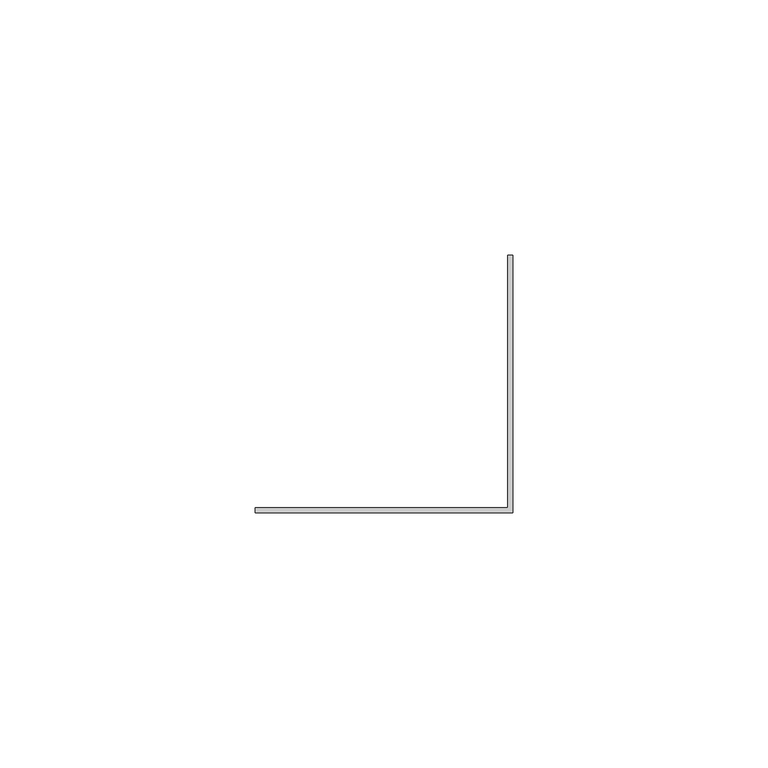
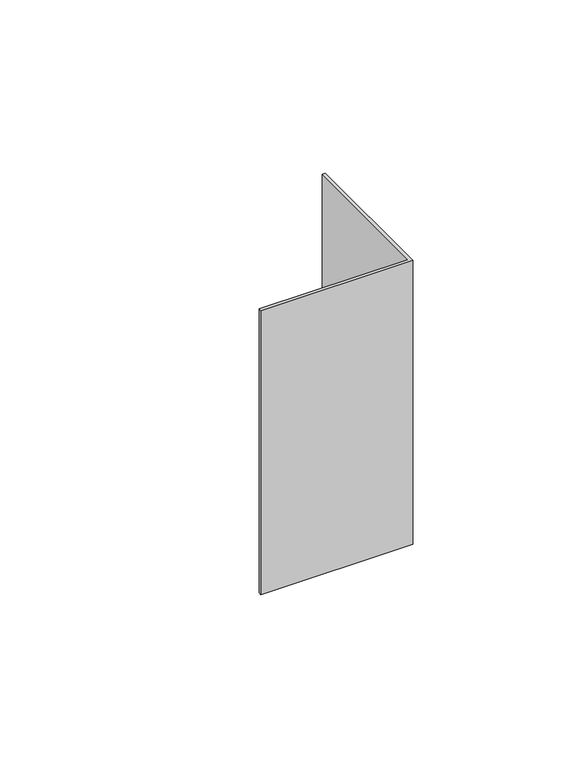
"""IFC4 building model written with IfcOpenShell, lengths in millimetres: member geometry, Meneau d'angle en L : ATELIERS 3S_Angle rentrant."""

from ifc_helpers import new_model, si_unit, frame, origin, place, context, project, spatial, polyline, outline, extrude, source, transform, mapped, element, save


def member_6ce742f2(model_context):
    return source(origin(), model_context, "Body", "SweptSolid", [
        extrude(outline(polyline([(0.0, 50.5), (0.0, 0.0), (-50.5, 0.0), (-50.5, 1.0), (-1.0, 1.0), (-1.0, 50.5), (0.0, 50.5)])), frame((0.0, 0.0, -100.0), z_axis=(0.0, 0.0, 1.0), x_axis=(1.0, 0.0, 0.0)), (0.0, 0.0, 1.0), 100.0),
    ])


if __name__ == "__main__":
    model = new_model("IFC4")
    model_context = context("Model", 3, world=origin())
    ifc_project = project(units=[si_unit("LENGTHUNIT", "METRE", prefix="MILLI")], contexts=[model_context])
    site = spatial("IfcSite", under=ifc_project)
    building = spatial("IfcBuilding", under=site)
    placement = place(None, origin())
    member_shape = member_6ce742f2(model_context)
    element("IfcMember", 1, ObjectType="Meneau d'angle en L : ATELIERS 3S_Angle rentrant", at=placement, inside=building, context=model_context, shape_type="MappedRepresentation", body=[
        mapped(member_shape, transform((0.0, 0.0, 0.0), x_axis=(1.0, 0.0, 0.0), y_axis=(0.0, 1.0, 0.0), z_axis=(0.0, 0.0, 1.0))),
    ])
    save(model, "model.ifc")
